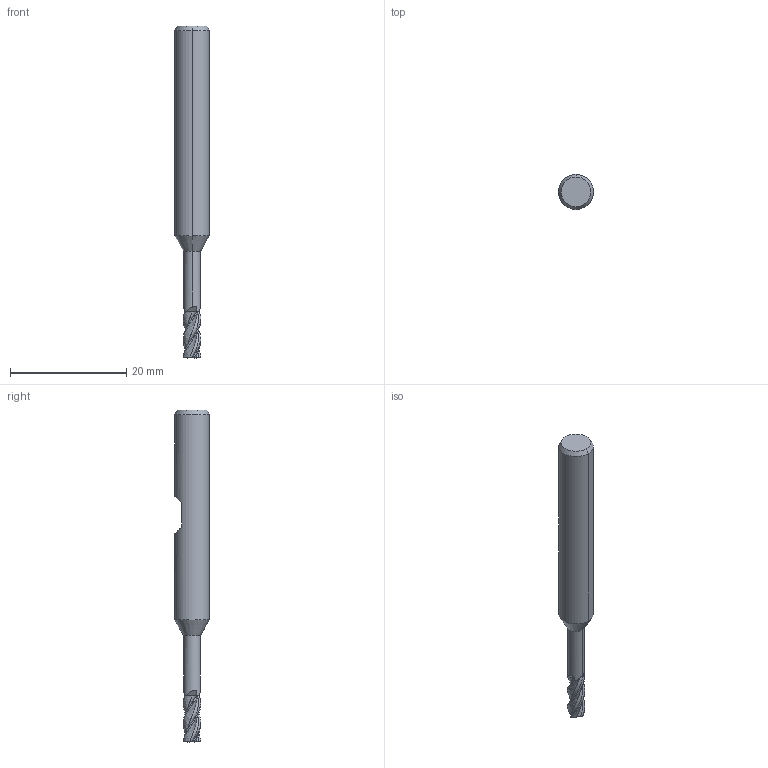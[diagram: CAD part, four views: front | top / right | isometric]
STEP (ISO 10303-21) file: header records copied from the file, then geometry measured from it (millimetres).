
FILE_DESCRIPTION(('no description'),'unknown implementation level');
FILE_NAME('solidgGVmezHR9fFgTeWf8aSq_vG0Pvo_1.STP',' ',('CIMSOURCE GmbH'),('CADClick - KiM GmbH - www.kimweb.de'),'unknown preprocess','ACIS','unknown authorization');
FILE_SCHEMA(('automotive_design'));
Length unit declared in the file: millimetre
Products named in the file (2): NOCUT; CUT
Bounding box: 6 x 6 x 57 mm (x, y, z)
Volume: 1134.6 mm3; surface area: 1002.7 mm2
Topology: 2 solids, 2 shells, 125 faces, 348 edges, 226 vertices
Faces by surface type: bspline 48, plane 23, cone 20, cylinder 16, revolution 12, torus 6
Entity records: 18738 total; most frequent: CARTESIAN_POINT 12093, STYLED_ITEM 701, PRESENTATION_STYLE_ASSIGNMENT 701, COLOUR_RGB 701, ORIENTED_EDGE 696, DIRECTION 378, EDGE_CURVE 348, CURVE_STYLE 348
